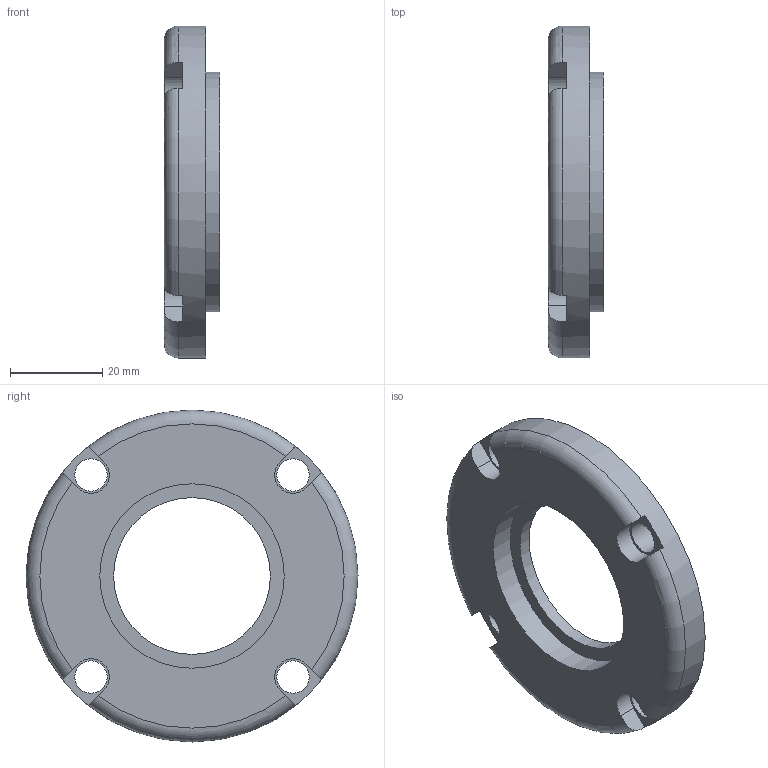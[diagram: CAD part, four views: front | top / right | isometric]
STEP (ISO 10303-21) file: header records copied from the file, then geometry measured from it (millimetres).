
FILE_DESCRIPTION(/* description */ (''),/* implementation_level */ '2;1');
FILE_NAME(/* name */ 'C:\Users\학생용.net-PC\Desktop\390803E1016.stp',/* time_stamp */ '2019-08-24T11:36:16+09:00',/* author */ ('학생용'),/* organization */ (''),/* preprocessor_version */ 'ST-DEVELOPER v15.2',/* originating_system */ 'Autodesk Inventor 2014',/* authorisation */ '');
FILE_SCHEMA (('AUTOMOTIVE_DESIGN { 1 0 10303 214 3 1 1 }'));
Length unit declared in the file: millimetre
Products named in the file (1): 1111
Bounding box: 12 x 72 x 72 mm (x, y, z)
Volume: 25392.4 mm3; surface area: 10281.5 mm2
Topology: 1 solids, 1 shells, 35 faces, 106 edges, 92 vertices
Faces by surface type: plane 17, cylinder 13, torus 5
Full cylindrical faces by diameter (mm): 7 x4, 34 x1, 40 x1, 46 x1, 52 x1, 72 x1
Entity records: 1239 total; most frequent: CARTESIAN_POINT 293, DIRECTION 206, ORIENTED_EDGE 156, AXIS2_PLACEMENT_3D 83, EDGE_CURVE 78, EDGE_LOOP 58, VERTEX_POINT 58, CIRCLE 47
